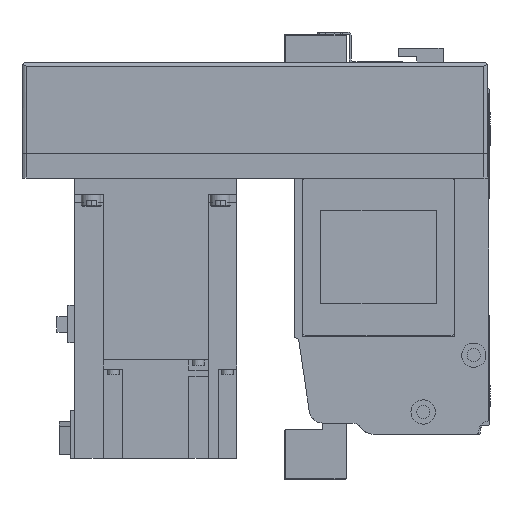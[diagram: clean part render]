
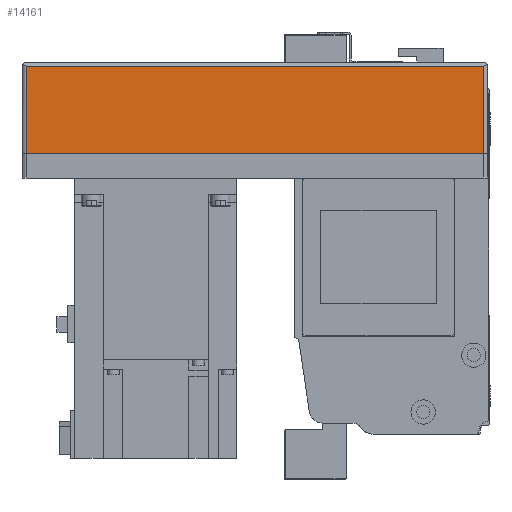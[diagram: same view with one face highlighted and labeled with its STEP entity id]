
A CAD part, left-side view. The second image highlights one B-rep face of the part: STEP entity #14161.
In plain terms, the highlighted planar face has unit normal (-1, 0, 0) as drawn and (0, 1, 0) by its records, which use the part's own axes.
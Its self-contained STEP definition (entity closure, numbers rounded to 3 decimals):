
#2552=ORIENTED_EDGE('',*,*,#5868,.F.);
#2553=ORIENTED_EDGE('',*,*,#5808,.T.);
#2554=ORIENTED_EDGE('',*,*,#5869,.F.);
#2555=ORIENTED_EDGE('',*,*,#5803,.F.);
#5803=EDGE_CURVE('',#7610,#7611,#9092,.T.);
#5808=EDGE_CURVE('',#7616,#7615,#9094,.T.);
#5868=EDGE_CURVE('',#7616,#7610,#9137,.T.);
#5869=EDGE_CURVE('',#7611,#7615,#9138,.T.);
#7610=VERTEX_POINT('',#22204);
#7611=VERTEX_POINT('',#22206);
#7615=VERTEX_POINT('',#22215);
#7616=VERTEX_POINT('',#22217);
#9092=LINE('',#22205,#10405);
#9094=LINE('',#22216,#10407);
#9137=LINE('',#22339,#10450);
#9138=LINE('',#22340,#10451);
#10405=VECTOR('',#17721,1000.);
#10407=VECTOR('',#17731,1000.);
#10450=VECTOR('',#17852,1000.);
#10451=VECTOR('',#17853,1000.);
#11558=EDGE_LOOP('',(#2552,#2553,#2554,#2555));
#12645=FACE_BOUND('',#11558,.T.);
#13564=PLANE('',#15224);
#14161=ADVANCED_FACE('',(#12645),#13564,.T.);
#15224=AXIS2_PLACEMENT_3D('',#22338,#17850,#17851);
#17721=DIRECTION('',(0.,0.,1.));
#17731=DIRECTION('',(0.,0.,1.));
#17850=DIRECTION('',(0.,1.,0.));
#17851=DIRECTION('',(0.,0.,1.));
#17852=DIRECTION('',(1.,0.,0.));
#17853=DIRECTION('',(-1.,0.,0.));
#22204=CARTESIAN_POINT('',(-2.,54.,-55.));
#22205=CARTESIAN_POINT('',(-2.,54.,-57.));
#22206=CARTESIAN_POINT('',(-2.,54.,-12.));
#22215=CARTESIAN_POINT('',(-228.,54.,-12.));
#22216=CARTESIAN_POINT('',(-228.,54.,-57.));
#22217=CARTESIAN_POINT('',(-228.,54.,-55.));
#22338=CARTESIAN_POINT('',(-2.,54.,-57.));
#22339=CARTESIAN_POINT('',(-230.,54.,-55.));
#22340=CARTESIAN_POINT('',(-2.,54.,-12.));
